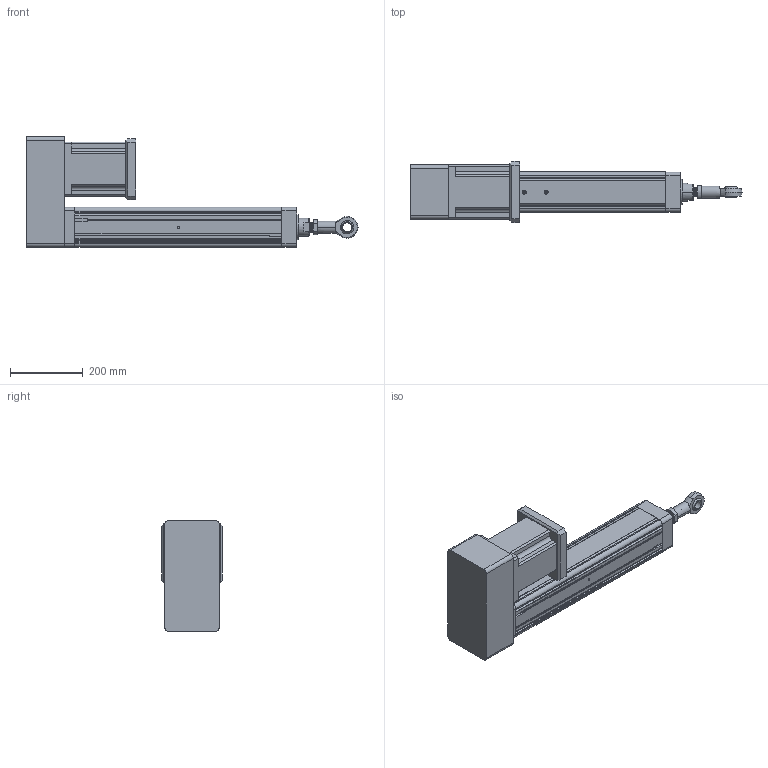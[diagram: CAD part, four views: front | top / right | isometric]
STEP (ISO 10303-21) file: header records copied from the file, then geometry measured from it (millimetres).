
FILE_DESCRIPTION (( 'STEP AP203' ), '1' );
FILE_NAME ('YRJ110-L400-H1K3.STEP', '2020-01-04T05:54:54', ( 'User' ), ( 'China' ), 'SwSTEP 2.0', 'SolidWorks 2016', '' );
FILE_SCHEMA (( 'CONFIG_CONTROL_DESIGN' ));
Length unit declared in the file: millimetre
Products named in the file (11): BNC01-SI25T_K-R; K3-110; 095-100俴最倰第; YRJ110-L400-H1K3; H1-110-1; H1-110-2; 142熬厒儂; 萇儂碟-110; K1-110; _BNC01-SI25T_K-R-001; _BNC01-SI25T_K-R-002
Assembly tree (10 placements, depth 4):
  YRJ110-L400-H1K3
    095-100俴最倰第
    H1-110-1
    H1-110-2
    萇儂碟-110
    142熬厒儂
    K3-110
      K1-110
      BNC01-SI25T_K-R
        _BNC01-SI25T_K-R-001
        _BNC01-SI25T_K-R-002
Bounding box: 915 x 168 x 305.5 mm (x, y, z)
Volume: 12281860.6 mm3; surface area: 1010515.4 mm2
Topology: 8 solids, 8 shells, 401 faces, 1105 edges, 705 vertices
Faces by surface type: plane 175, cylinder 170, cone 42, bspline 14
Entity records: 22805 total; most frequent: CARTESIAN_POINT 11707, ORIENTED_EDGE 2138, DIRECTION 2004, EDGE_CURVE 1069, VERTEX_POINT 705, AXIS2_PLACEMENT_3D 682, VECTOR 640, LINE 640
